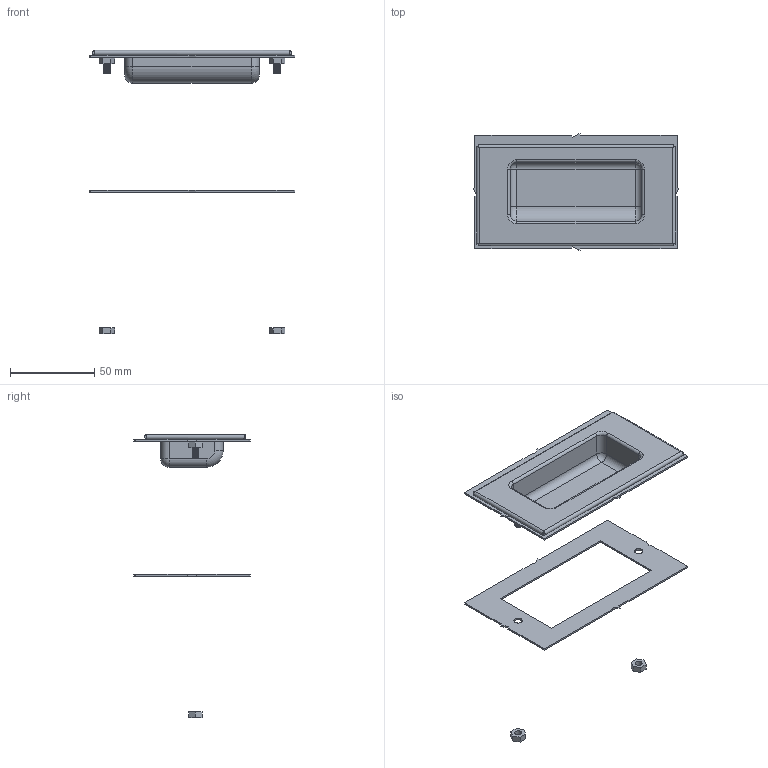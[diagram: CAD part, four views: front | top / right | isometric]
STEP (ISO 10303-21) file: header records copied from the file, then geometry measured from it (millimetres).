
FILE_DESCRIPTION (( 'STEP AP203' ), '1' );
FILE_NAME ('HP-002.STEP', '2015-11-18T07:35:49', ( '' ), ( '' ), 'SwSTEP 2.0', 'SolidWorks 2014', '' );
FILE_SCHEMA (( 'CONFIG_CONTROL_DESIGN' ));
Length unit declared in the file: millimetre
Products named in the file (1): HP-002
Bounding box: 122 x 69.32 x 168 mm (x, y, z)
Volume: 21160 mm3; surface area: 43773.5 mm2
Topology: 7 solids, 7 shells, 266 faces, 680 edges, 428 vertices
Faces by surface type: plane 118, cylinder 116, bspline 16, torus 12, sphere 4
Entity records: 16035 total; most frequent: CARTESIAN_POINT 10011, ORIENTED_EDGE 1352, DIRECTION 1092, EDGE_CURVE 676, VERTEX_POINT 428, VECTOR 394, LINE 394, AXIS2_PLACEMENT_3D 349
